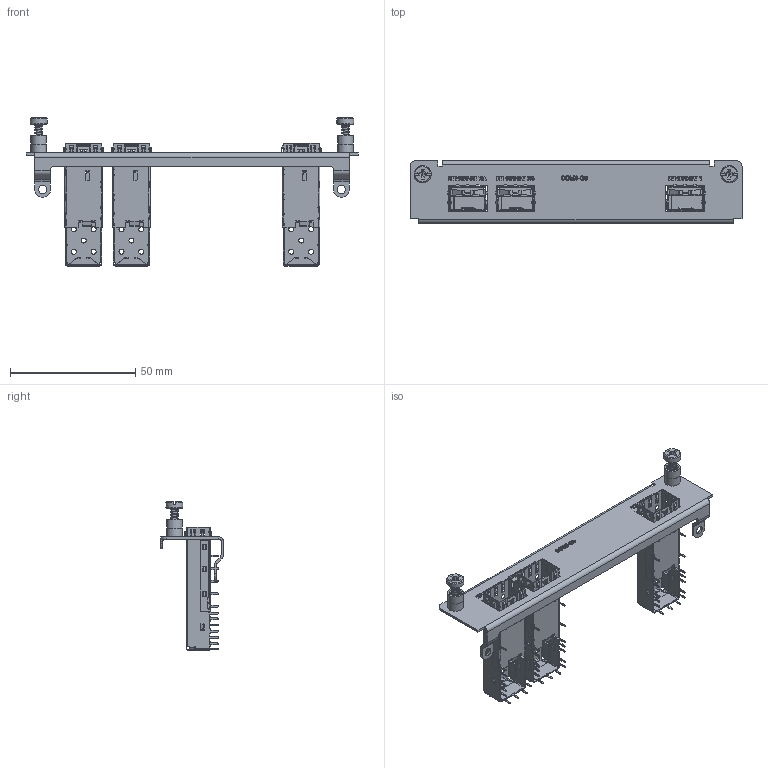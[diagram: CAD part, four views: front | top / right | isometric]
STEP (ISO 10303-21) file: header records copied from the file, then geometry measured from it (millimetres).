
FILE_DESCRIPTION(/* description */ (''),/* implementation_level */ '2;1');
FILE_NAME(/* name */ 'C:\Workspace\Workspace\103 - Highland\Engineering\95792\G3-FLEX.stp',/* time_stamp */ '2023-04-14T13:32:30-05:00',/* author */ ('jasonz'),/* organization */ (''),/* preprocessor_version */ 'ST-DEVELOPER v18.1',/* originating_system */ 'Autodesk Inventor 2022',/* authorisation */ '');
FILE_SCHEMA (('AUTOMOTIVE_DESIGN { 1 0 10303 214 3 1 1 }'));
Products named in the file (7): G3-FLEX; 9579230116; 9579200030; 9579200030_1; 44090; 9579200095; Amphenol U77A1113X001
Assembly tree (9 placements, depth 4):
  G3-FLEX
    9579230116
      9579200030
        9579200030_1
      44090  x2
    9579200095
    Amphenol U77A1113X001  x3
Bounding box: 132.59 x 25.02 x 59.11 mm (x, y, z)
Volume: 3999 mm3; surface area: 23472.5 mm2
Topology: 43 solids, 3652 shells, 4364 faces, 20884 edges, 20215 vertices
Faces by surface type: plane 2478, cylinder 1468, bspline 380, cone 36, torus 2
Full cylindrical faces by diameter (mm): 1.905 x2, 2.413 x2, 2.824 x2, 2.921 x2, 3.251 x2, 3.632 x2, 3.658 x2, 3.912 x2, 4.648 x2, 4.826 x2, 6.223 x4, 6.833 x2
Entity records: 95785 total; most frequent: CARTESIAN_POINT 28639, DIRECTION 12861, ORIENTED_EDGE 9805, EDGE_CURVE 8063, VERTEX_POINT 7469, LINE 5467, VECTOR 5467, AXIS2_PLACEMENT_3D 3697
